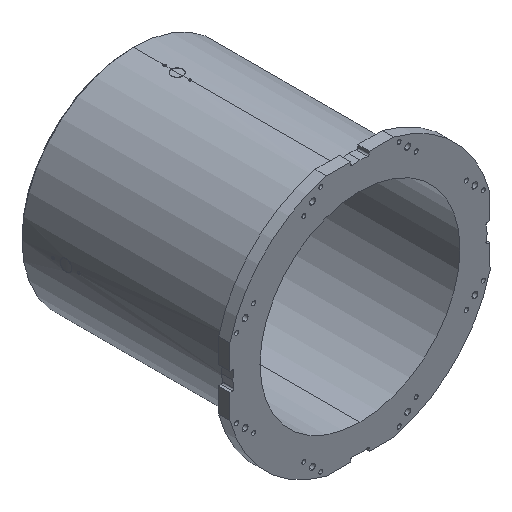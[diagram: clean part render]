
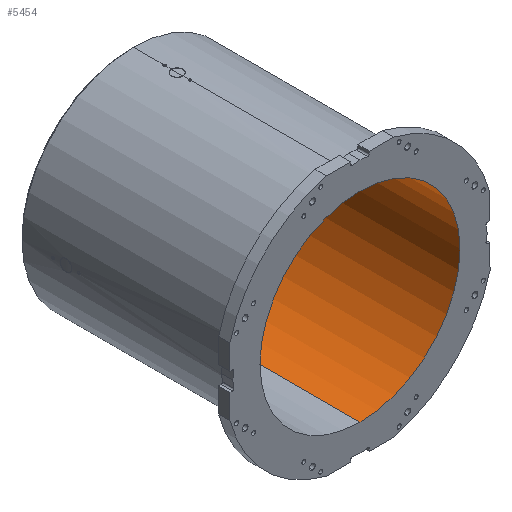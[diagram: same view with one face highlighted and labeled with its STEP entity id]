
A CAD part, isometric view. The second image highlights one B-rep face of the part: STEP entity #5454.
In plain terms, the highlighted cylindrical face has radius 350 mm (diameter 700 mm), a partial arc.
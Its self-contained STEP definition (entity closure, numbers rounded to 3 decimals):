
#221 = CIRCLE ( 'NONE', #9722, 350. ) ;
#265 = CARTESIAN_POINT ( 'NONE',  ( 0., 0., 350. ) ) ;
#1080 = VERTEX_POINT ( 'NONE', #2286 ) ;
#1223 = CIRCLE ( 'NONE', #11746, 350. ) ;
#1576 = DIRECTION ( 'NONE',  ( 0., 0., 1. ) ) ;
#2286 = CARTESIAN_POINT ( 'NONE',  ( 0., 0., -350. ) ) ;
#2474 = AXIS2_PLACEMENT_3D ( 'NONE', #7738, #4778, #4839 ) ;
#3077 = VERTEX_POINT ( 'NONE', #7203 ) ;
#3392 = ORIENTED_EDGE ( 'NONE', *, *, #7983, .T. ) ;
#3803 = CYLINDRICAL_SURFACE ( 'NONE', #2474, 350. ) ;
#4209 = EDGE_CURVE ( 'NONE', #3077, #7224, #221, .T. ) ;
#4679 = DIRECTION ( 'NONE',  ( 0., 1., 0. ) ) ;
#4778 = DIRECTION ( 'NONE',  ( 0., 1., 0. ) ) ;
#4839 = DIRECTION ( 'NONE',  ( 0., 0., 1. ) ) ;
#5263 = CARTESIAN_POINT ( 'NONE',  ( 0., 0., 350. ) ) ;
#5408 = VECTOR ( 'NONE', #10114, 1000. ) ;
#5454 = ADVANCED_FACE ( 'NONE', ( #5935 ), #3803, .F. ) ;
#5691 = DIRECTION ( 'NONE',  ( 0., 1., 0. ) ) ;
#5757 = ORIENTED_EDGE ( 'NONE', *, *, #4209, .T. ) ;
#5935 = FACE_OUTER_BOUND ( 'NONE', #11472, .T. ) ;
#6105 = LINE ( 'NONE', #265, #6163 ) ;
#6163 = VECTOR ( 'NONE', #7070, 1000. ) ;
#7070 = DIRECTION ( 'NONE',  ( 0., 1., 0. ) ) ;
#7203 = CARTESIAN_POINT ( 'NONE',  ( 0., 763., 350. ) ) ;
#7217 = CARTESIAN_POINT ( 'NONE',  ( 0., 0., -350. ) ) ;
#7224 = VERTEX_POINT ( 'NONE', #12429 ) ;
#7738 = CARTESIAN_POINT ( 'NONE',  ( 0., 0., 0. ) ) ;
#7754 = EDGE_CURVE ( 'NONE', #8165, #1080, #1223, .T. ) ;
#7983 = EDGE_CURVE ( 'NONE', #8165, #3077, #6105, .T. ) ;
#8060 = LINE ( 'NONE', #7217, #5408 ) ;
#8165 = VERTEX_POINT ( 'NONE', #5263 ) ;
#8958 = ORIENTED_EDGE ( 'NONE', *, *, #12793, .F. ) ;
#9515 = CARTESIAN_POINT ( 'NONE',  ( 0., 763., 0. ) ) ;
#9612 = DIRECTION ( 'NONE',  ( 0., 0., 1. ) ) ;
#9722 = AXIS2_PLACEMENT_3D ( 'NONE', #9515, #4679, #1576 ) ;
#10114 = DIRECTION ( 'NONE',  ( 0., 1., 0. ) ) ;
#10584 = CARTESIAN_POINT ( 'NONE',  ( 0., 0., 0. ) ) ;
#11472 = EDGE_LOOP ( 'NONE', ( #8958, #11800, #3392, #5757 ) ) ;
#11746 = AXIS2_PLACEMENT_3D ( 'NONE', #10584, #5691, #9612 ) ;
#11800 = ORIENTED_EDGE ( 'NONE', *, *, #7754, .F. ) ;
#12429 = CARTESIAN_POINT ( 'NONE',  ( 0., 763., -350. ) ) ;
#12793 = EDGE_CURVE ( 'NONE', #1080, #7224, #8060, .T. ) ;
